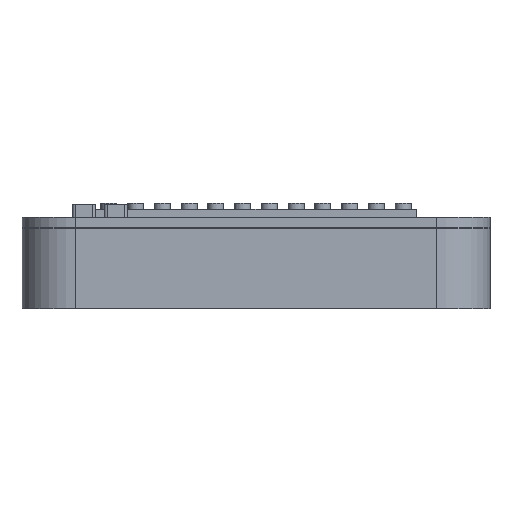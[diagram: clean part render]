
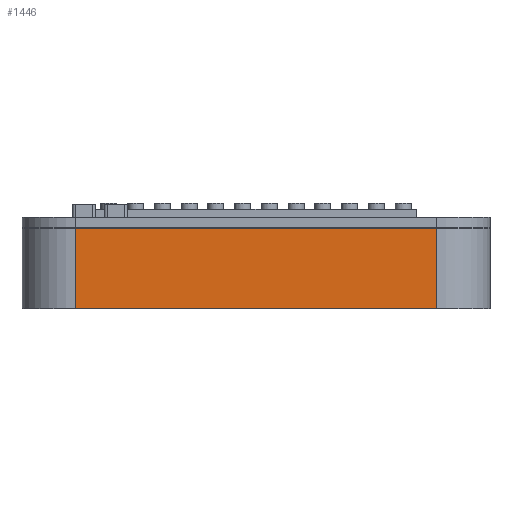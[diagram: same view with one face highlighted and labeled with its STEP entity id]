
A CAD part, front view. The second image highlights one B-rep face of the part: STEP entity #1446.
In plain terms, the highlighted planar face has unit normal (0, -1, 0).
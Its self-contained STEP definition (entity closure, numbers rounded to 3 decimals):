
#118 = PLANE('',#119);
#119 = AXIS2_PLACEMENT_3D('',#120,#121,#122);
#120 = CARTESIAN_POINT('',(0.,0.,24.));
#121 = DIRECTION('',(0.,0.,1.));
#122 = DIRECTION('',(1.,0.,0.));
#146 = CYLINDRICAL_SURFACE('',#147,16.);
#147 = AXIS2_PLACEMENT_3D('',#148,#149,#150);
#148 = CARTESIAN_POINT('',(16.,16.,0.));
#149 = DIRECTION('',(0.,0.,1.));
#150 = DIRECTION('',(-1.,-0.,0.));
#174 = PLANE('',#175);
#175 = AXIS2_PLACEMENT_3D('',#176,#177,#178);
#176 = CARTESIAN_POINT('',(0.,0.,0.));
#177 = DIRECTION('',(0.,0.,1.));
#178 = DIRECTION('',(1.,0.,0.));
#217 = VERTEX_POINT('',#218);
#218 = CARTESIAN_POINT('',(16.,0.,24.));
#240 = EDGE_CURVE('',#217,#241,#243,.T.);
#241 = VERTEX_POINT('',#242);
#242 = CARTESIAN_POINT('',(124.,0.,24.));
#243 = SURFACE_CURVE('',#244,(#248,#255),.PCURVE_S1.);
#244 = LINE('',#245,#246);
#245 = CARTESIAN_POINT('',(0.,0.,24.));
#246 = VECTOR('',#247,1.);
#247 = DIRECTION('',(1.,0.,0.));
#248 = PCURVE('',#118,#249);
#249 = DEFINITIONAL_REPRESENTATION('',(#250),#254);
#250 = LINE('',#251,#252);
#251 = CARTESIAN_POINT('',(0.,0.));
#252 = VECTOR('',#253,1.);
#253 = DIRECTION('',(1.,0.));
#254 = ( GEOMETRIC_REPRESENTATION_CONTEXT(2) 
PARAMETRIC_REPRESENTATION_CONTEXT() REPRESENTATION_CONTEXT('2D SPACE',''
  ) );
#255 = PCURVE('',#256,#261);
#256 = PLANE('',#257);
#257 = AXIS2_PLACEMENT_3D('',#258,#259,#260);
#258 = CARTESIAN_POINT('',(0.,0.,0.));
#259 = DIRECTION('',(0.,1.,0.));
#260 = DIRECTION('',(0.,0.,1.));
#261 = DEFINITIONAL_REPRESENTATION('',(#262),#266);
#262 = LINE('',#263,#264);
#263 = CARTESIAN_POINT('',(24.,0.));
#264 = VECTOR('',#265,1.);
#265 = DIRECTION('',(0.,1.));
#266 = ( GEOMETRIC_REPRESENTATION_CONTEXT(2) 
PARAMETRIC_REPRESENTATION_CONTEXT() REPRESENTATION_CONTEXT('2D SPACE',''
  ) );
#289 = CYLINDRICAL_SURFACE('',#290,16.);
#290 = AXIS2_PLACEMENT_3D('',#291,#292,#293);
#291 = CARTESIAN_POINT('',(124.,16.,0.));
#292 = DIRECTION('',(0.,0.,1.));
#293 = DIRECTION('',(1.,0.,-0.));
#1222 = VERTEX_POINT('',#1223);
#1223 = CARTESIAN_POINT('',(16.,0.,0.));
#1245 = EDGE_CURVE('',#1222,#217,#1246,.T.);
#1246 = SURFACE_CURVE('',#1247,(#1251,#1258),.PCURVE_S1.);
#1247 = LINE('',#1248,#1249);
#1248 = CARTESIAN_POINT('',(16.,0.,0.));
#1249 = VECTOR('',#1250,1.);
#1250 = DIRECTION('',(0.,0.,1.));
#1251 = PCURVE('',#146,#1252);
#1252 = DEFINITIONAL_REPRESENTATION('',(#1253),#1257);
#1253 = LINE('',#1254,#1255);
#1254 = CARTESIAN_POINT('',(1.571,0.));
#1255 = VECTOR('',#1256,1.);
#1256 = DIRECTION('',(0.,1.));
#1257 = ( GEOMETRIC_REPRESENTATION_CONTEXT(2) 
PARAMETRIC_REPRESENTATION_CONTEXT() REPRESENTATION_CONTEXT('2D SPACE',''
  ) );
#1258 = PCURVE('',#256,#1259);
#1259 = DEFINITIONAL_REPRESENTATION('',(#1260),#1264);
#1260 = LINE('',#1261,#1262);
#1261 = CARTESIAN_POINT('',(0.,16.));
#1262 = VECTOR('',#1263,1.);
#1263 = DIRECTION('',(1.,0.));
#1264 = ( GEOMETRIC_REPRESENTATION_CONTEXT(2) 
PARAMETRIC_REPRESENTATION_CONTEXT() REPRESENTATION_CONTEXT('2D SPACE',''
  ) );
#1327 = EDGE_CURVE('',#1222,#1328,#1330,.T.);
#1328 = VERTEX_POINT('',#1329);
#1329 = CARTESIAN_POINT('',(124.,0.,0.));
#1330 = SURFACE_CURVE('',#1331,(#1335,#1342),.PCURVE_S1.);
#1331 = LINE('',#1332,#1333);
#1332 = CARTESIAN_POINT('',(0.,0.,0.));
#1333 = VECTOR('',#1334,1.);
#1334 = DIRECTION('',(1.,0.,0.));
#1335 = PCURVE('',#174,#1336);
#1336 = DEFINITIONAL_REPRESENTATION('',(#1337),#1341);
#1337 = LINE('',#1338,#1339);
#1338 = CARTESIAN_POINT('',(0.,0.));
#1339 = VECTOR('',#1340,1.);
#1340 = DIRECTION('',(1.,0.));
#1341 = ( GEOMETRIC_REPRESENTATION_CONTEXT(2) 
PARAMETRIC_REPRESENTATION_CONTEXT() REPRESENTATION_CONTEXT('2D SPACE',''
  ) );
#1342 = PCURVE('',#256,#1343);
#1343 = DEFINITIONAL_REPRESENTATION('',(#1344),#1348);
#1344 = LINE('',#1345,#1346);
#1345 = CARTESIAN_POINT('',(0.,0.));
#1346 = VECTOR('',#1347,1.);
#1347 = DIRECTION('',(0.,1.));
#1348 = ( GEOMETRIC_REPRESENTATION_CONTEXT(2) 
PARAMETRIC_REPRESENTATION_CONTEXT() REPRESENTATION_CONTEXT('2D SPACE',''
  ) );
#1446 = ADVANCED_FACE('',(#1447),#256,.F.);
#1447 = FACE_BOUND('',#1448,.F.);
#1448 = EDGE_LOOP('',(#1449,#1450,#1451,#1452));
#1449 = ORIENTED_EDGE('',*,*,#1327,.F.);
#1450 = ORIENTED_EDGE('',*,*,#1245,.T.);
#1451 = ORIENTED_EDGE('',*,*,#240,.T.);
#1452 = ORIENTED_EDGE('',*,*,#1453,.F.);
#1453 = EDGE_CURVE('',#1328,#241,#1454,.T.);
#1454 = SURFACE_CURVE('',#1455,(#1459,#1466),.PCURVE_S1.);
#1455 = LINE('',#1456,#1457);
#1456 = CARTESIAN_POINT('',(124.,0.,0.));
#1457 = VECTOR('',#1458,1.);
#1458 = DIRECTION('',(0.,0.,1.));
#1459 = PCURVE('',#256,#1460);
#1460 = DEFINITIONAL_REPRESENTATION('',(#1461),#1465);
#1461 = LINE('',#1462,#1463);
#1462 = CARTESIAN_POINT('',(0.,124.));
#1463 = VECTOR('',#1464,1.);
#1464 = DIRECTION('',(1.,0.));
#1465 = ( GEOMETRIC_REPRESENTATION_CONTEXT(2) 
PARAMETRIC_REPRESENTATION_CONTEXT() REPRESENTATION_CONTEXT('2D SPACE',''
  ) );
#1466 = PCURVE('',#289,#1467);
#1467 = DEFINITIONAL_REPRESENTATION('',(#1468),#1472);
#1468 = LINE('',#1469,#1470);
#1469 = CARTESIAN_POINT('',(-1.571,0.));
#1470 = VECTOR('',#1471,1.);
#1471 = DIRECTION('',(-0.,1.));
#1472 = ( GEOMETRIC_REPRESENTATION_CONTEXT(2) 
PARAMETRIC_REPRESENTATION_CONTEXT() REPRESENTATION_CONTEXT('2D SPACE',''
  ) );
